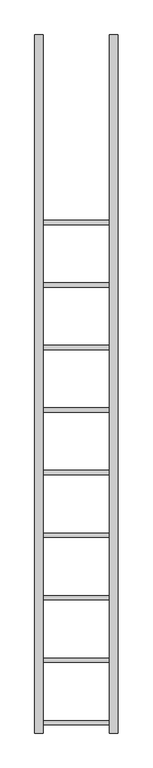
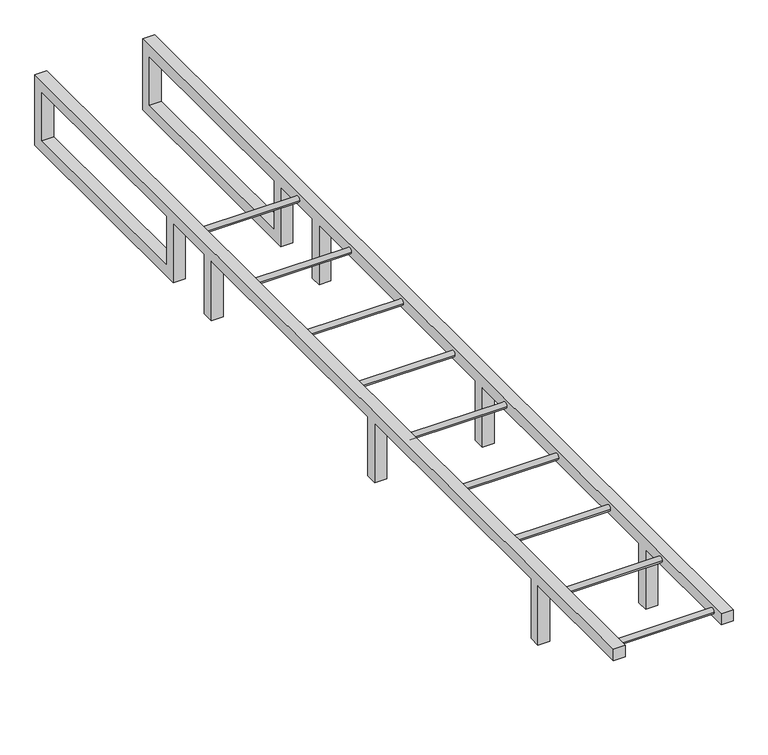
"""IFC4 building model written with IfcOpenShell, lengths in millimetres: furniture geometry, H11 Escalera tanque exterior : H11 Escalera tanque exterior."""

from ifc_helpers import new_model, si_unit, point, frame, frame_2d, origin, place, context, project, spatial, polyline, circle_curve, trimmed, segment, composite_curve, outline, extrude, source, transform, mapped, element, save


def furniture_ba2fe2c0(model_context):
    return source(origin(), model_context, "Body", "SweptSolid", [
        extrude(outline(composite_curve([segment(trimmed(circle_curve(frame_2d((-2324.481963, 230.0)), 10.0), [point((-2334.481963, 230.0))], [point((-2314.481963, 230.0))], False, "CARTESIAN"), True, "CONTINUOUS"), segment(trimmed(circle_curve(frame_2d((-2324.481963, 230.0)), 10.0), [point((-2314.481963, 230.0))], [point((-2334.481963, 230.0))], False, "CARTESIAN"), True, "CONTINUOUS")], self_intersect=False)), frame((-160.0, 0.0, 0.0), z_axis=(1.0, 0.0, 0.0), x_axis=(0.0, 1.0, 0.0)), (0.0, 0.0, 1.0), 320.0),
        extrude(outline(composite_curve([segment(trimmed(circle_curve(frame_2d((-2024.481963, 230.0)), 10.0), [point((-2034.481963, 230.0))], [point((-2014.481963, 230.0))], False, "CARTESIAN"), True, "CONTINUOUS"), segment(trimmed(circle_curve(frame_2d((-2024.481963, 230.0)), 10.0), [point((-2014.481963, 230.0))], [point((-2034.481963, 230.0))], False, "CARTESIAN"), True, "CONTINUOUS")], self_intersect=False)), frame((-160.0, 0.0, 0.0), z_axis=(1.0, 0.0, 0.0), x_axis=(0.0, 1.0, 0.0)), (0.0, 0.0, 1.0), 320.0),
        extrude(outline(composite_curve([segment(trimmed(circle_curve(frame_2d((-1724.481963, 230.0)), 10.0), [point((-1734.481963, 230.0))], [point((-1714.481963, 230.0))], False, "CARTESIAN"), True, "CONTINUOUS"), segment(trimmed(circle_curve(frame_2d((-1724.481963, 230.0)), 10.0), [point((-1714.481963, 230.0))], [point((-1734.481963, 230.0))], False, "CARTESIAN"), True, "CONTINUOUS")], self_intersect=False)), frame((-160.0, 0.0, 0.0), z_axis=(1.0, 0.0, 0.0), x_axis=(0.0, 1.0, 0.0)), (0.0, 0.0, 1.0), 320.0),
        extrude(outline(composite_curve([segment(trimmed(circle_curve(frame_2d((-1424.481963, 230.0)), 10.0), [point((-1434.481963, 230.0))], [point((-1414.481963, 230.0))], False, "CARTESIAN"), True, "CONTINUOUS"), segment(trimmed(circle_curve(frame_2d((-1424.481963, 230.0)), 10.0), [point((-1414.481963, 230.0))], [point((-1434.481963, 230.0))], False, "CARTESIAN"), True, "CONTINUOUS")], self_intersect=False)), frame((-160.0, 0.0, 0.0), z_axis=(1.0, 0.0, 0.0), x_axis=(0.0, 1.0, 0.0)), (0.0, 0.0, 1.0), 320.0),
        extrude(outline(composite_curve([segment(trimmed(circle_curve(frame_2d((-1124.481963, 230.0)), 10.0), [point((-1134.481963, 230.0))], [point((-1114.481963, 230.0))], False, "CARTESIAN"), True, "CONTINUOUS"), segment(trimmed(circle_curve(frame_2d((-1124.481963, 230.0)), 10.0), [point((-1114.481963, 230.0))], [point((-1134.481963, 230.0))], False, "CARTESIAN"), True, "CONTINUOUS")], self_intersect=False)), frame((-160.0, 0.0, 0.0), z_axis=(1.0, 0.0, 0.0), x_axis=(0.0, 1.0, 0.0)), (0.0, 0.0, 1.0), 320.0),
        extrude(outline(composite_curve([segment(trimmed(circle_curve(frame_2d((-824.481963, 230.0)), 10.0), [point((-834.481963, 230.0))], [point((-814.481963, 230.0))], False, "CARTESIAN"), True, "CONTINUOUS"), segment(trimmed(circle_curve(frame_2d((-824.481963, 230.0)), 10.0), [point((-814.481963, 230.0))], [point((-834.481963, 230.0))], False, "CARTESIAN"), True, "CONTINUOUS")], self_intersect=False)), frame((-160.0, 0.0, 0.0), z_axis=(1.0, 0.0, 0.0), x_axis=(0.0, 1.0, 0.0)), (0.0, 0.0, 1.0), 320.0),
        extrude(outline(composite_curve([segment(trimmed(circle_curve(frame_2d((-524.481963, 230.0)), 10.0), [point((-534.481963, 230.0))], [point((-514.481963, 230.0))], False, "CARTESIAN"), True, "CONTINUOUS"), segment(trimmed(circle_curve(frame_2d((-524.481963, 230.0)), 10.0), [point((-514.481963, 230.0))], [point((-534.481963, 230.0))], False, "CARTESIAN"), True, "CONTINUOUS")], self_intersect=False)), frame((-160.0, 0.0, 0.0), z_axis=(1.0, 0.0, 0.0), x_axis=(0.0, 1.0, 0.0)), (0.0, 0.0, 1.0), 320.0),
        extrude(outline(composite_curve([segment(trimmed(circle_curve(frame_2d((-224.481963, 230.0)), 10.0), [point((-234.481963, 230.0))], [point((-214.481963, 230.0))], False, "CARTESIAN"), True, "CONTINUOUS"), segment(trimmed(circle_curve(frame_2d((-224.481963, 230.0)), 10.0), [point((-214.481963, 230.0))], [point((-234.481963, 230.0))], False, "CARTESIAN"), True, "CONTINUOUS")], self_intersect=False)), frame((-160.0, 0.0, 0.0), z_axis=(1.0, 0.0, 0.0), x_axis=(0.0, 1.0, 0.0)), (0.0, 0.0, 1.0), 320.0),
        extrude(outline(composite_curve([segment(trimmed(circle_curve(frame_2d((75.518037, 230.0)), 10.0), [point((65.518037, 230.0))], [point((85.518037, 230.0))], False, "CARTESIAN"), True, "CONTINUOUS"), segment(trimmed(circle_curve(frame_2d((75.518037, 230.0)), 10.0), [point((85.518037, 230.0))], [point((65.518037, 230.0))], False, "CARTESIAN"), True, "CONTINUOUS")], self_intersect=False)), frame((-160.0, 0.0, 0.0), z_axis=(1.0, 0.0, 0.0), x_axis=(0.0, 1.0, 0.0)), (0.0, 0.0, 1.0), 320.0),
        extrude(outline(polyline([(975.518037, 250.0), (975.518037, 0.0), (175.518037, 0.0), (175.518037, 210.0), (-6.0208121, 210.0), (-6.0208121, 0.0), (-46.0208121, 0.0), (-46.0208121, 210.0), (-951.7902742, 210.0), (-951.7902742, 0.0), (-991.7902742, 0.0), (-991.7902742, 210.0), (-1897.5597362, 210.0), (-1897.5597362, 0.0), (-1937.5597362, 0.0), (-1937.5597362, 210.0), (-2374.481963, 210.0), (-2374.481963, 250.0), (975.518037, 250.0)]), holes=[polyline([(215.518037, 210.0), (215.518037, 40.0), (935.518037, 40.0), (935.518037, 210.0), (215.518037, 210.0)])]), frame((160.0, 0.0, 0.0), z_axis=(1.0, 0.0, 0.0), x_axis=(0.0, 1.0, 0.0)), (0.0, 0.0, 1.0), 40.0),
        extrude(outline(polyline([(975.518037, 250.0), (975.518037, 0.0), (175.518037, 0.0), (175.518037, 210.0), (-6.0208121, 210.0), (-6.0208121, 0.0), (-46.0208121, 0.0), (-46.0208121, 210.0), (-951.7902742, 210.0), (-951.7902742, 0.0), (-991.7902742, 0.0), (-991.7902742, 210.0), (-1897.5597362, 210.0), (-1897.5597362, 0.0), (-1937.5597362, 0.0), (-1937.5597362, 210.0), (-2374.481963, 210.0), (-2374.481963, 250.0), (975.518037, 250.0)]), holes=[polyline([(215.518037, 210.0), (215.518037, 40.0), (935.518037, 40.0), (935.518037, 210.0), (215.518037, 210.0)])]), frame((-200.0, 0.0, 0.0), z_axis=(1.0, 0.0, 0.0), x_axis=(0.0, 1.0, 0.0)), (0.0, 0.0, 1.0), 40.0),
    ])


if __name__ == "__main__":
    model = new_model("IFC4")
    model_context = context("Model", 3, world=origin())
    ifc_project = project(units=[si_unit("LENGTHUNIT", "METRE", prefix="MILLI")], contexts=[model_context])
    site = spatial("IfcSite", under=ifc_project)
    building = spatial("IfcBuilding", under=site)
    placement = place(None, origin())
    furniture_shape = furniture_ba2fe2c0(model_context)
    element("IfcFurniture", 1, ObjectType="H11 Escalera tanque exterior : H11 Escalera tanque exterior", at=placement, inside=building, context=model_context, shape_type="MappedRepresentation", body=[
        mapped(furniture_shape, transform((0.0, 0.0, 0.0), x_axis=(1.0, 0.0, 0.0), y_axis=(0.0, 1.0, 0.0), z_axis=(0.0, 0.0, 1.0))),
    ])
    save(model, "model.ifc")
